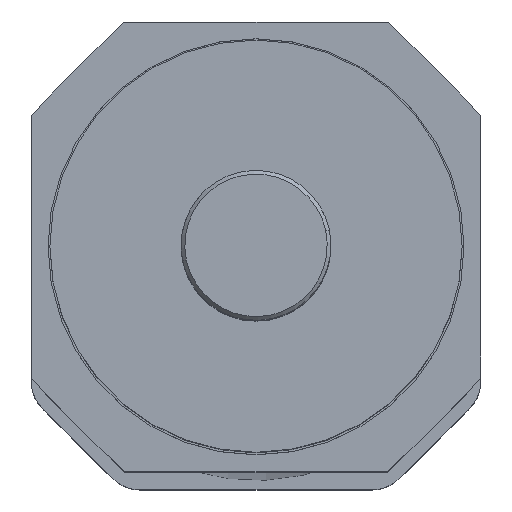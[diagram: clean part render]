
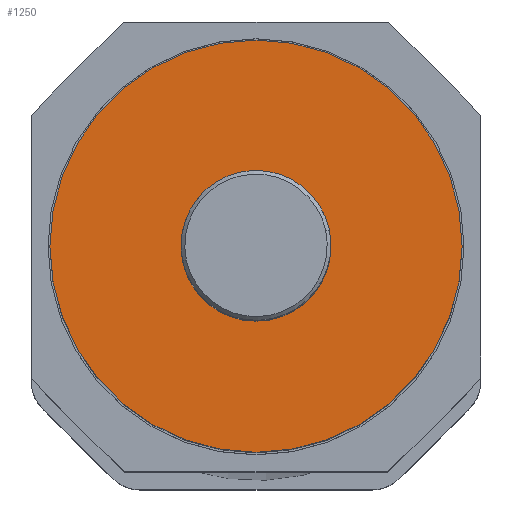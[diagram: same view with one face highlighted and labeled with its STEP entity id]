
A CAD part, top view. The second image highlights one B-rep face of the part: STEP entity #1250.
In plain terms, the highlighted planar face has unit normal (0, 0, 1) as drawn and (0, 0, -1) by its records, which use the part's own axes.
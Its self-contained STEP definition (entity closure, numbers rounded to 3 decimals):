
#57 = VERTEX_POINT ( 'NONE', #2554 ) ;
#116 = DIRECTION ( 'NONE',  ( 0., 0., -1. ) ) ;
#144 = AXIS2_PLACEMENT_3D ( 'NONE', #1837, #116, #2130 ) ;
#168 = DIRECTION ( 'NONE',  ( 0., 0., -1. ) ) ;
#204 = DIRECTION ( 'NONE',  ( 0., 0., 1. ) ) ;
#388 = DIRECTION ( 'NONE',  ( 1., 0., 0. ) ) ;
#414 = EDGE_CURVE ( 'NONE', #2775, #57, #3462, .T. ) ;
#520 = CIRCLE ( 'NONE', #1653, 4. ) ;
#551 = VERTEX_POINT ( 'NONE', #3283 ) ;
#605 = VERTEX_POINT ( 'NONE', #2749 ) ;
#700 = DIRECTION ( 'NONE',  ( 0., 0., 1. ) ) ;
#846 = ORIENTED_EDGE ( 'NONE', *, *, #414, .F. ) ;
#1228 = PLANE ( 'NONE',  #2177 ) ;
#1250 = ADVANCED_FACE ( 'NONE', ( #2161, #1325 ), #1228, .F. ) ;
#1325 = FACE_OUTER_BOUND ( 'NONE', #2270, .T. ) ;
#1416 = EDGE_CURVE ( 'NONE', #551, #605, #2296, .T. ) ;
#1515 = EDGE_CURVE ( 'NONE', #57, #2775, #520, .T. ) ;
#1538 = AXIS2_PLACEMENT_3D ( 'NONE', #1903, #204, #2201 ) ;
#1578 = EDGE_CURVE ( 'NONE', #605, #551, #3323, .T. ) ;
#1653 = AXIS2_PLACEMENT_3D ( 'NONE', #1883, #168, #2175 ) ;
#1837 = CARTESIAN_POINT ( 'NONE',  ( 0., 0., 0. ) ) ;
#1867 = CARTESIAN_POINT ( 'NONE',  ( 4., 0., 0. ) ) ;
#1883 = CARTESIAN_POINT ( 'NONE',  ( 0., 0., 0. ) ) ;
#1903 = CARTESIAN_POINT ( 'NONE',  ( 0., 0., 0. ) ) ;
#1907 = AXIS2_PLACEMENT_3D ( 'NONE', #2402, #700, #2665 ) ;
#2077 = DIRECTION ( 'NONE',  ( 0., 0., 1. ) ) ;
#2130 = DIRECTION ( 'NONE',  ( -1., 0., 0. ) ) ;
#2161 = FACE_BOUND ( 'NONE', #3657, .T. ) ;
#2175 = DIRECTION ( 'NONE',  ( -1., 0., 0. ) ) ;
#2177 = AXIS2_PLACEMENT_3D ( 'NONE', #2628, #2077, #388 ) ;
#2201 = DIRECTION ( 'NONE',  ( 1., 0., 0. ) ) ;
#2270 = EDGE_LOOP ( 'NONE', ( #3084, #2455 ) ) ;
#2296 = CIRCLE ( 'NONE', #1907, 11. ) ;
#2402 = CARTESIAN_POINT ( 'NONE',  ( 0., 0., 0. ) ) ;
#2455 = ORIENTED_EDGE ( 'NONE', *, *, #1416, .F. ) ;
#2554 = CARTESIAN_POINT ( 'NONE',  ( -4., 0., 0. ) ) ;
#2628 = CARTESIAN_POINT ( 'NONE',  ( 0., 0., 0. ) ) ;
#2665 = DIRECTION ( 'NONE',  ( 1., 0., 0. ) ) ;
#2749 = CARTESIAN_POINT ( 'NONE',  ( -11., 0., 0. ) ) ;
#2775 = VERTEX_POINT ( 'NONE', #1867 ) ;
#3084 = ORIENTED_EDGE ( 'NONE', *, *, #1578, .F. ) ;
#3283 = CARTESIAN_POINT ( 'NONE',  ( 11., 0., 0. ) ) ;
#3323 = CIRCLE ( 'NONE', #1538, 11. ) ;
#3391 = ORIENTED_EDGE ( 'NONE', *, *, #1515, .F. ) ;
#3462 = CIRCLE ( 'NONE', #144, 4. ) ;
#3657 = EDGE_LOOP ( 'NONE', ( #3391, #846 ) ) ;
